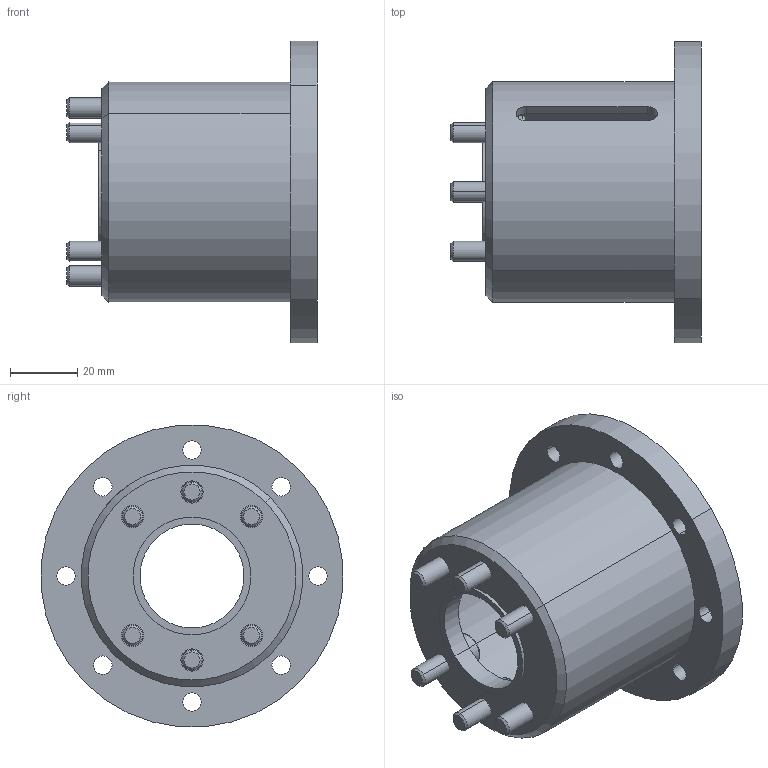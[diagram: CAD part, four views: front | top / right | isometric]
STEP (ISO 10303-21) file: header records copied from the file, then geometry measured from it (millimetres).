
FILE_DESCRIPTION (( 'STEP AP203' ), '1' );
FILE_NAME ('MG090.STEP', '2024-01-16T07:50:34', ( '' ), ( '' ), 'SwSTEP 2.0', 'SolidWorks 2022', '' );
FILE_SCHEMA (( 'CONFIG_CONTROL_DESIGN' ));
Length unit declared in the file: millimetre
Products named in the file (1): MG090
Bounding box: 74.4 x 89.66 x 89.66 mm (x, y, z)
Volume: 73608.9 mm3; surface area: 42250.3 mm2
Topology: 13 solids, 13 shells, 211 faces, 514 edges, 332 vertices
Faces by surface type: cylinder 88, plane 73, cone 26, torus 24
Entity records: 6363 total; most frequent: CARTESIAN_POINT 1210, DIRECTION 1132, ORIENTED_EDGE 1004, EDGE_CURVE 502, AXIS2_PLACEMENT_3D 470, VERTEX_POINT 332, EDGE_LOOP 270, CIRCLE 258
